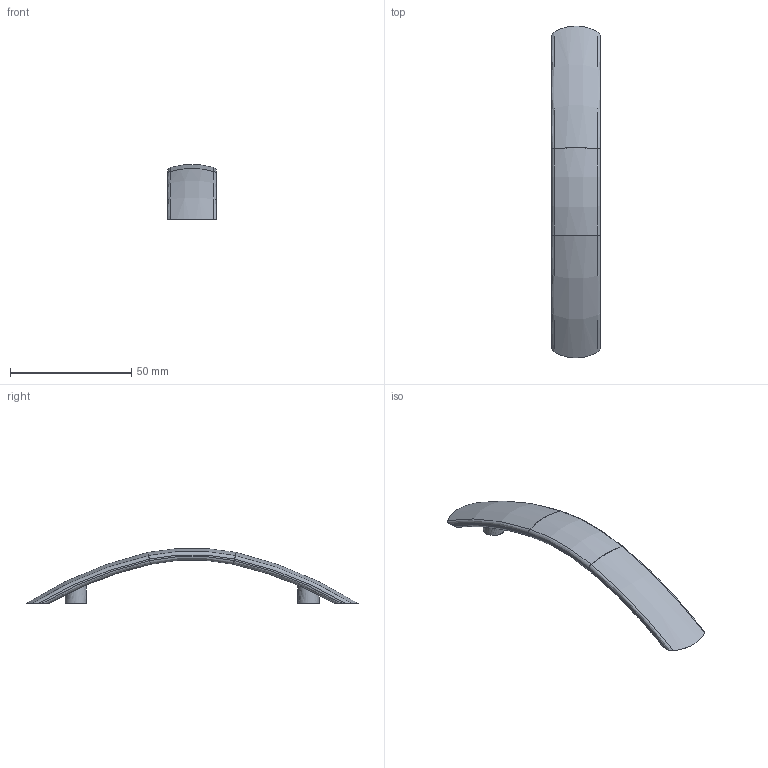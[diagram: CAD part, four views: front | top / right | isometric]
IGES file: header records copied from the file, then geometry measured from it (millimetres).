
Start section: C
Global section: file name: 0064-137.igs; native system: By Siemens PLM Incorporated; preprocessor: XPlus GENERIC/IGES 16.0.42; author: Author; organization: Title; date: 20260104.160711; units: millimetre
Bounding box: 20.2 x 136.95 x 22.62 mm (x, y, z)
Surface area: 6933.4 mm2 (no closed solid volume)
Topology: 0 solids, 0 shells, 30 faces, 136 edges, 136 vertices
Faces by surface type: bspline 30
